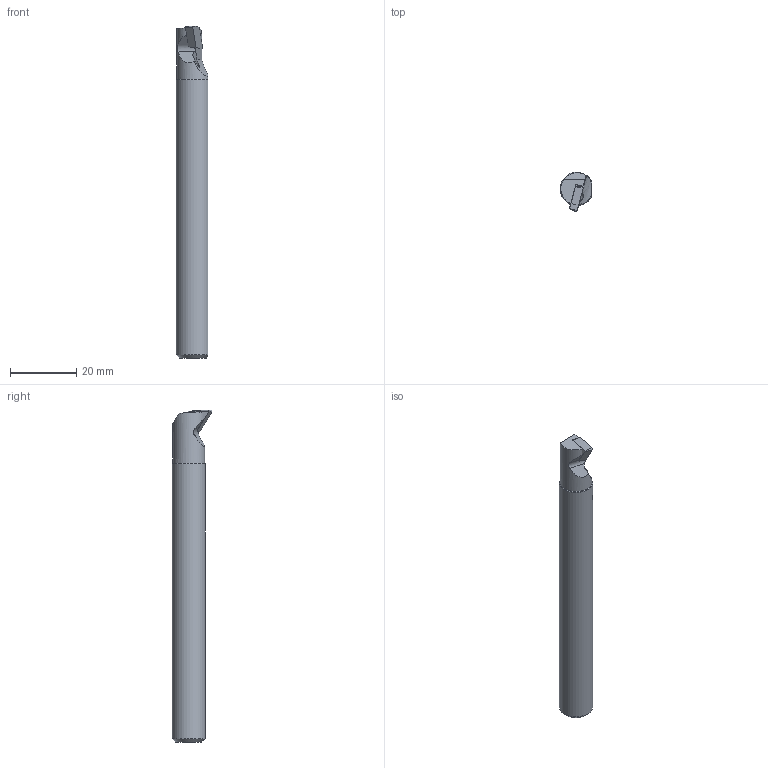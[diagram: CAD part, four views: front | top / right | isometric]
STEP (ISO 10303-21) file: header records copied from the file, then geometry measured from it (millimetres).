
FILE_DESCRIPTION(/* description */ (''),/* implementation_level */ '2;1');
FILE_NAME(/* name */ 'A10H-SDUCR-07-HAAS.stp',/* time_stamp */ '2021-09-29T10:28:35+09:00',/* author */ (''),/* organization */ (''),/* preprocessor_version */ 'ST-DEVELOPER v16',/* originating_system */ 'SIEMENS PLM Software NX 10.0',/* authorisation */ '');
FILE_SCHEMA (('AUTOMOTIVE_DESIGN { 1 0 10303 214 3 1 1 1 }'));
Length unit declared in the file: millimetre
Products named in the file (1): model1
Bounding box: 9.48 x 11.97 x 100 mm (x, y, z)
Volume: 6729.8 mm3; surface area: 4136.6 mm2
Topology: 2 solids, 2 shells, 38 faces, 100 edges, 66 vertices
Faces by surface type: plane 27, cylinder 6, cone 4, bspline 1
Full cylindrical faces by diameter (mm): 2.5 x1, 3 x1
Entity records: 1277 total; most frequent: CARTESIAN_POINT 338, ORIENTED_EDGE 188, DIRECTION 182, EDGE_CURVE 94, AXIS2_PLACEMENT_3D 64, VERTEX_POINT 63, LINE 54, VECTOR 54
